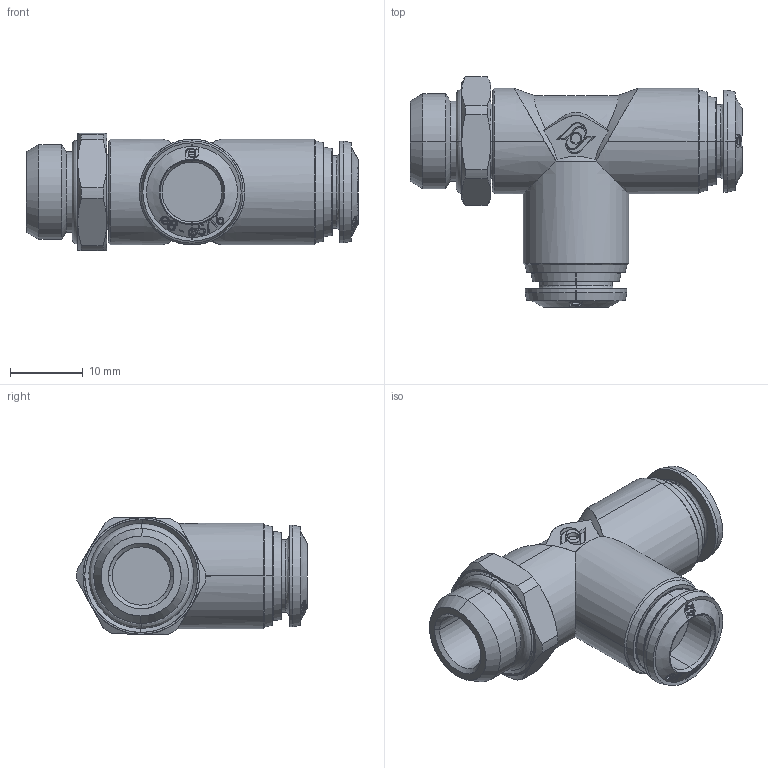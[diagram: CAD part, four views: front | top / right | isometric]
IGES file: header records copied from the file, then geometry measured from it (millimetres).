
Start section: SolidWorks IGES file using analytic representation for surfaces
Global section: file name: K:\Disegni Esecutivi\Serie 50000\ASSIEMI_50000\50226\ASSIEMI_PIENI_50226\5022600011.IGS; native system: SolidWorks 2008; preprocessor: SolidWorks 2008; author: cad02; date: 080523.095258; units: millimetre
Bounding box: 45.6 x 31.65 x 16.14 mm (x, y, z)
Surface area: 4493 mm2 (no closed solid volume)
Topology: 0 solids, 0 shells, 460 faces, 5279 edges, 5273 vertices
Faces by surface type: bspline 303, revolution 157
